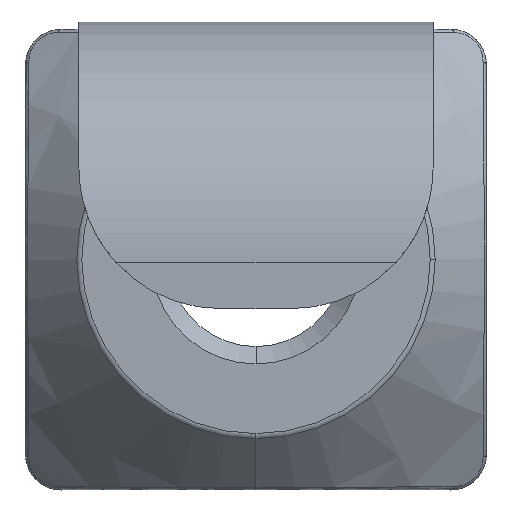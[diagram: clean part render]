
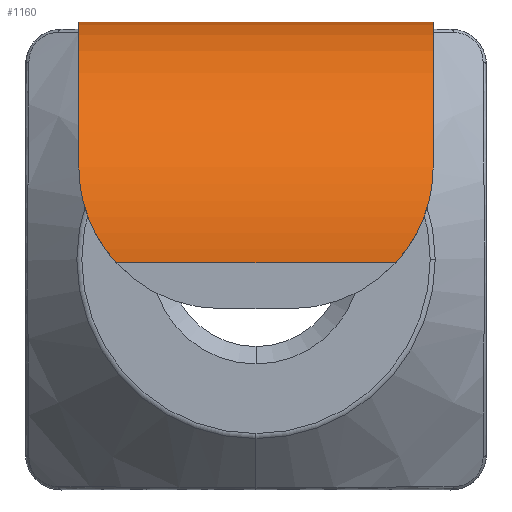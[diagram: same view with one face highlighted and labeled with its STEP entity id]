
A CAD part, top view. The second image highlights one B-rep face of the part: STEP entity #1160.
In plain terms, the highlighted cylindrical face has radius 6.8 mm (diameter 13.6 mm), a partial arc.
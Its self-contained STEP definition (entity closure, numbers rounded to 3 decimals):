
#41 = CARTESIAN_POINT ( 'NONE',  ( 5., 6.7, 4. ) ) ;
#43 = EDGE_CURVE ( 'NONE', #784, #2579, #1601, .T. ) ;
#84 = CARTESIAN_POINT ( 'NONE',  ( 5., 2.6, 10.241 ) ) ;
#110 = VECTOR ( 'NONE', #824, 1000. ) ;
#113 = CARTESIAN_POINT ( 'NONE',  ( -4.646, 0.949, 10.72 ) ) ;
#115 = CARTESIAN_POINT ( 'NONE',  ( 4.914, 1.64, 10.59 ) ) ;
#141 = FACE_OUTER_BOUND ( 'NONE', #3220, .T. ) ;
#209 = EDGE_CURVE ( 'NONE', #2579, #2840, #3104, .T. ) ;
#211 = CYLINDRICAL_SURFACE ( 'NONE', #1291, 6.8 ) ;
#314 = CARTESIAN_POINT ( 'NONE',  ( 4.371, 0.446, 10.778 ) ) ;
#315 = DIRECTION ( 'NONE',  ( 1., 0., 0. ) ) ;
#381 = CARTESIAN_POINT ( 'NONE',  ( 5., 2.118, 10.45 ) ) ;
#529 = ORIENTED_EDGE ( 'NONE', *, *, #2236, .T. ) ;
#613 = DIRECTION ( 'NONE',  ( -1., 0., 0. ) ) ;
#618 = EDGE_CURVE ( 'NONE', #2254, #784, #1748, .T. ) ;
#624 = CARTESIAN_POINT ( 'NONE',  ( -4.82, 1.413, 10.63 ) ) ;
#640 = CARTESIAN_POINT ( 'NONE',  ( 4.644, 0.95, 10.719 ) ) ;
#669 = ORIENTED_EDGE ( 'NONE', *, *, #618, .T. ) ;
#784 = VERTEX_POINT ( 'NONE', #2792 ) ;
#824 = DIRECTION ( 'NONE',  ( -1., 0., 0. ) ) ;
#877 = CARTESIAN_POINT ( 'NONE',  ( 4.338, 0.395, 10.782 ) ) ;
#889 = CARTESIAN_POINT ( 'NONE',  ( -4.978, 2.119, 10.433 ) ) ;
#905 = CARTESIAN_POINT ( 'NONE',  ( -4.783, 1.298, 10.655 ) ) ;
#977 = DIRECTION ( 'NONE',  ( 0., 0., 1. ) ) ;
#1099 = CARTESIAN_POINT ( 'NONE',  ( 4.719, 1.126, 10.689 ) ) ;
#1132 = CARTESIAN_POINT ( 'NONE',  ( -5., 2.359, 10.345 ) ) ;
#1146 = CARTESIAN_POINT ( 'NONE',  ( -4.471, 0.61, 10.763 ) ) ;
#1160 = ADVANCED_FACE ( 'NONE', ( #141 ), #211, .T. ) ;
#1196 = AXIS2_PLACEMENT_3D ( 'NONE', #2142, #613, #2913 ) ;
#1231 = LINE ( 'NONE', #3245, #1387 ) ;
#1291 = AXIS2_PLACEMENT_3D ( 'NONE', #2502, #3026, #977 ) ;
#1307 = CARTESIAN_POINT ( 'NONE',  ( -3.951, -0.1, 10.8 ) ) ;
#1387 = VECTOR ( 'NONE', #2765, 1000. ) ;
#1407 = CARTESIAN_POINT ( 'NONE',  ( -4.763, 1.243, 10.666 ) ) ;
#1422 = ORIENTED_EDGE ( 'NONE', *, *, #209, .T. ) ;
#1426 = CARTESIAN_POINT ( 'NONE',  ( 4.472, 0.61, 10.764 ) ) ;
#1529 = EDGE_CURVE ( 'NONE', #3197, #2053, #1231, .T. ) ;
#1575 = DIRECTION ( 'NONE',  ( 0., 0., 1. ) ) ;
#1601 = LINE ( 'NONE', #41, #110 ) ;
#1645 = AXIS2_PLACEMENT_3D ( 'NONE', #2641, #315, #1575 ) ;
#1709 = CARTESIAN_POINT ( 'NONE',  ( 4.231, 0.241, 10.792 ) ) ;
#1748 = CIRCLE ( 'NONE', #1196, 6.8 ) ;
#1797 = CARTESIAN_POINT ( 'NONE',  ( 3.951, -0.1, 10.8 ) ) ;
#1899 = CARTESIAN_POINT ( 'NONE',  ( 4.267, 0.292, 10.789 ) ) ;
#1914 = CARTESIAN_POINT ( 'NONE',  ( 4.618, 0.892, 10.727 ) ) ;
#1956 = CARTESIAN_POINT ( 'NONE',  ( -4.562, 0.778, 10.743 ) ) ;
#1957 = ORIENTED_EDGE ( 'NONE', *, *, #2687, .T. ) ;
#2045 = CARTESIAN_POINT ( 'NONE',  ( -4.123, 0.087, 10.8 ) ) ;
#2053 = VERTEX_POINT ( 'NONE', #1307 ) ;
#2142 = CARTESIAN_POINT ( 'NONE',  ( 5., -0.1, 4. ) ) ;
#2182 = CARTESIAN_POINT ( 'NONE',  ( -4.887, 1.646, 10.573 ) ) ;
#2185 = CARTESIAN_POINT ( 'NONE',  ( 3.951, -0.1, 10.8 ) ) ;
#2199 = ORIENTED_EDGE ( 'NONE', *, *, #1529, .F. ) ;
#2236 = EDGE_CURVE ( 'NONE', #2840, #2053, #3324, .T. ) ;
#2254 = VERTEX_POINT ( 'NONE', #2534 ) ;
#2302 = CARTESIAN_POINT ( 'NONE',  ( -4.437, 0.554, 10.769 ) ) ;
#2419 = CARTESIAN_POINT ( 'NONE',  ( 4.534, 0.721, 10.751 ) ) ;
#2449 = CARTESIAN_POINT ( 'NONE',  ( -4.696, 1.065, 10.7 ) ) ;
#2502 = CARTESIAN_POINT ( 'NONE',  ( 5., -0.1, 4. ) ) ;
#2534 = CARTESIAN_POINT ( 'NONE',  ( 5., 2.6, 10.241 ) ) ;
#2579 = VERTEX_POINT ( 'NONE', #2781 ) ;
#2641 = CARTESIAN_POINT ( 'NONE',  ( -5., -0.1, 4. ) ) ;
#2687 = EDGE_CURVE ( 'NONE', #3197, #2254, #3008, .T. ) ;
#2702 = CARTESIAN_POINT ( 'NONE',  ( 4.695, 1.066, 10.7 ) ) ;
#2730 = CARTESIAN_POINT ( 'NONE',  ( -4.532, 0.722, 10.75 ) ) ;
#2765 = DIRECTION ( 'NONE',  ( -1., 0., 0. ) ) ;
#2781 = CARTESIAN_POINT ( 'NONE',  ( -5., 6.7, 4. ) ) ;
#2792 = CARTESIAN_POINT ( 'NONE',  ( 5., 6.7, 4. ) ) ;
#2840 = VERTEX_POINT ( 'NONE', #2953 ) ;
#2913 = DIRECTION ( 'NONE',  ( 0., 0., 1. ) ) ;
#2953 = CARTESIAN_POINT ( 'NONE',  ( -5., 2.6, 10.241 ) ) ;
#2971 = CARTESIAN_POINT ( 'NONE',  ( -4.914, 1.764, 10.541 ) ) ;
#2974 = CARTESIAN_POINT ( 'NONE',  ( 4.037, -0.006, 10.8 ) ) ;
#3008 = B_SPLINE_CURVE_WITH_KNOTS ( 'NONE', 3,
 ( #2185, #2974, #3238, #1709, #1899, #877, #314, #1426, #2419, #1914, #640, #2702, #1099, #115, #381, #84 ),
 .UNSPECIFIED., .F., .F.,
 ( 4, 2, 2, 2, 2, 2, 2, 4 ),
 ( 0., 0.125, 0.188, 0.25, 0.375, 0.438, 0.5, 1. ),
 .UNSPECIFIED. ) ;
#3026 = DIRECTION ( 'NONE',  ( -1., 0., 0. ) ) ;
#3027 = CARTESIAN_POINT ( 'NONE',  ( -4.274, 0.288, 10.792 ) ) ;
#3104 = CIRCLE ( 'NONE', #1645, 6.8 ) ;
#3197 = VERTEX_POINT ( 'NONE', #1797 ) ;
#3202 = ORIENTED_EDGE ( 'NONE', *, *, #43, .T. ) ;
#3219 = CARTESIAN_POINT ( 'NONE',  ( -4.838, 1.471, 10.616 ) ) ;
#3220 = EDGE_LOOP ( 'NONE', ( #529, #2199, #1957, #669, #3202, #1422 ) ) ;
#3235 = CARTESIAN_POINT ( 'NONE',  ( -5., 2.6, 10.241 ) ) ;
#3238 = CARTESIAN_POINT ( 'NONE',  ( 4.118, 0.091, 10.798 ) ) ;
#3245 = CARTESIAN_POINT ( 'NONE',  ( 5., -0.1, 10.8 ) ) ;
#3285 = CARTESIAN_POINT ( 'NONE',  ( -3.951, -0.1, 10.8 ) ) ;
#3324 = B_SPLINE_CURVE_WITH_KNOTS ( 'NONE', 3,
 ( #3235, #1132, #889, #2971, #2182, #3219, #624, #905, #1407, #2449, #113, #1956, #2730, #1146, #2302, #3027, #2045, #3285 ),
 .UNSPECIFIED., .F., .F.,
 ( 4, 2, 2, 2, 2, 2, 2, 2, 4 ),
 ( 0., 0.25, 0.375, 0.438, 0.5, 0.625, 0.688, 0.75, 1. ),
 .UNSPECIFIED. ) ;
